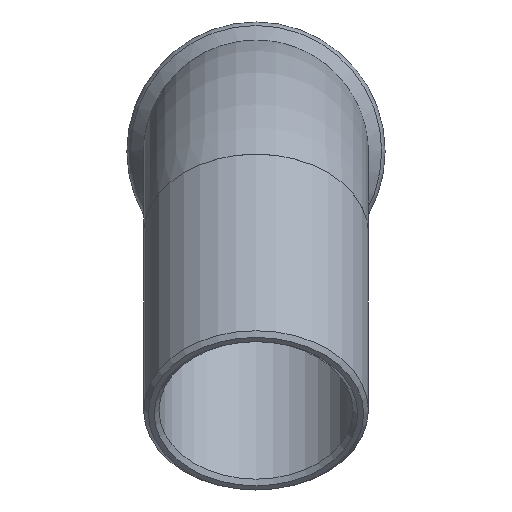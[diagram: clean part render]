
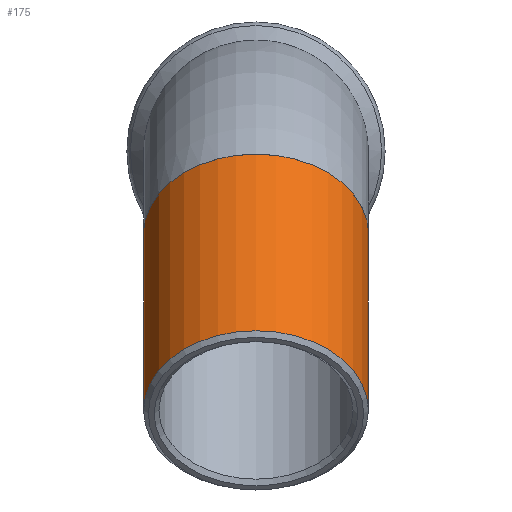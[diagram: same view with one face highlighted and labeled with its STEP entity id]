
A CAD part, top view. The second image highlights one B-rep face of the part: STEP entity #175.
In plain terms, the highlighted cylindrical face has radius 4.763 mm (diameter 9.525 mm), a full revolution.
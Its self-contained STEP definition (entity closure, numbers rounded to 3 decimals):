
#144=CARTESIAN_POINT('',(-4.763,0.99,15.981));
#145=VERTEX_POINT('',#144);
#146=CARTESIAN_POINT('',(0.0,0.99,15.981));
#147=DIRECTION('',(0.0,-0.707,0.707));
#148=DIRECTION('',(1.0,0.0,0.0));
#149=AXIS2_PLACEMENT_3D('',#146,#147,#148);
#150=CIRCLE('',#149,4.763);
#151=EDGE_CURVE('',#145,#145,#150,.T.);
#156=CARTESIAN_POINT('',(0.0,8.485,8.485));
#157=DIRECTION('',(0.0,-0.707,0.707));
#158=DIRECTION('',(1.0,0.0,0.0));
#159=AXIS2_PLACEMENT_3D('',#156,#157,#158);
#160=CYLINDRICAL_SURFACE('',#159,4.763);
#161=CARTESIAN_POINT('',(-4.763,8.485,8.485));
#162=VERTEX_POINT('',#161);
#163=CARTESIAN_POINT('',(0.0,8.485,8.485));
#164=DIRECTION('',(0.0,0.707,-0.707));
#165=DIRECTION('',(1.0,0.0,0.0));
#166=AXIS2_PLACEMENT_3D('',#163,#164,#165);
#167=CIRCLE('',#166,4.763);
#168=EDGE_CURVE('',#162,#162,#167,.T.);
#169=ORIENTED_EDGE('',*,*,#168,.F.);
#170=EDGE_LOOP('',(#169));
#171=FACE_OUTER_BOUND('',#170,.T.);
#172=ORIENTED_EDGE('',*,*,#151,.F.);
#173=EDGE_LOOP('',(#172));
#174=FACE_BOUND('',#173,.T.);
#175=ADVANCED_FACE('',(#171,#174),#160,.T.);
